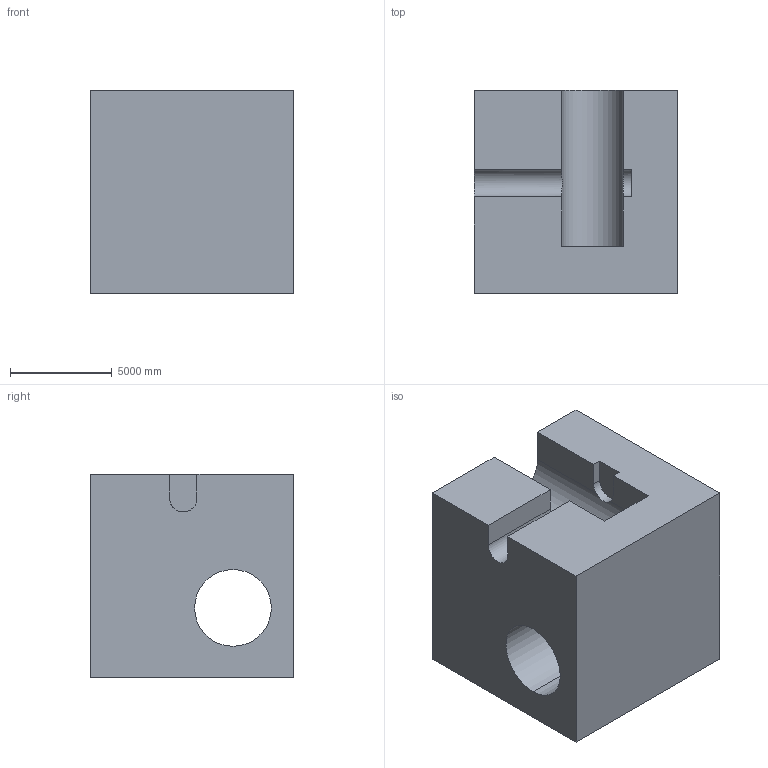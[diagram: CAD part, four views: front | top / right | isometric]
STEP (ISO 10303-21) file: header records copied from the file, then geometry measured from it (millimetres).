
FILE_DESCRIPTION (( 'STEP AP203' ), '1' );
FILE_NAME ('1259.STEP', '2022-08-18T13:26:13', ( 'user' ), ( '' ), 'SwSTEP 2.0', 'SolidWorks 2021', '' );
FILE_SCHEMA (( 'CONFIG_CONTROL_DESIGN' ));
Length unit declared in the file: centimetre
Products named in the file (1): 1259
Bounding box: 10000 x 10000 x 10000 mm (x, y, z)
Volume: 811441444316 mm3; surface area: 744873980.9 mm2
Topology: 1 solids, 1 shells, 22 faces, 60 edges, 40 vertices
Faces by surface type: plane 17, cylinder 5
Entity records: 883 total; most frequent: CARTESIAN_POINT 233, ORIENTED_EDGE 120, DIRECTION 116, EDGE_CURVE 60, VECTOR 46, LINE 46, VERTEX_POINT 40, AXIS2_PLACEMENT_3D 35
